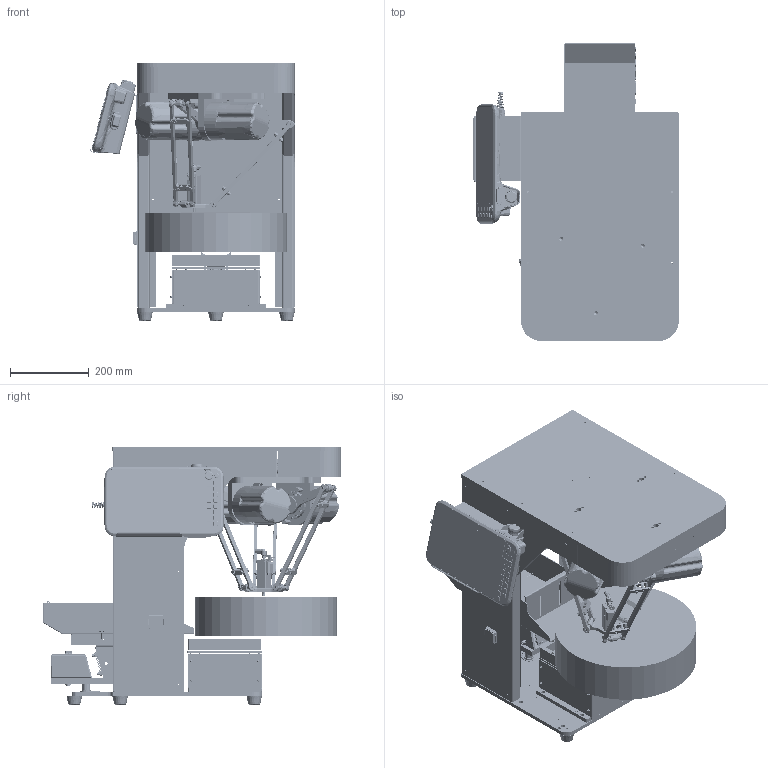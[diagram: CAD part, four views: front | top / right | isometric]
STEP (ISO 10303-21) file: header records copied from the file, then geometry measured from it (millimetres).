
FILE_DESCRIPTION (( 'STEP AP203' ), '1' );
FILE_NAME ('QFSM-AP11-2016Íâ·¢Ä£ÐÍ.STEP', '2026-03-09T08:56:42', ( '' ), ( '' ), 'SwSTEP 2.0', 'SolidWorks 2017', '' );
FILE_SCHEMA (( 'CONFIG_CONTROL_DESIGN' ));
Products named in the file (1): QFSM-AP11-2016俋楷耀倰
Bounding box: 521.41 x 756.31 x 652 mm (x, y, z)
Surface area: 6146342.5 mm2 (no closed solid volume)
Topology: 0 solids, 510 shells, 20570 faces, 52691 edges, 33748 vertices
Faces by surface type: plane 9297, cylinder 6199, bspline 3425, cone 1530, torus 112, sphere 7
Full cylindrical faces by diameter (mm): 14 x2
Entity records: 800097 total; most frequent: CARTESIAN_POINT 319103, ORIENTED_EDGE 104368, DIRECTION 91472, EDGE_CURVE 52203, VERTEX_POINT 33735, AXIS2_PLACEMENT_3D 30951, LINE 29570, VECTOR 29570
